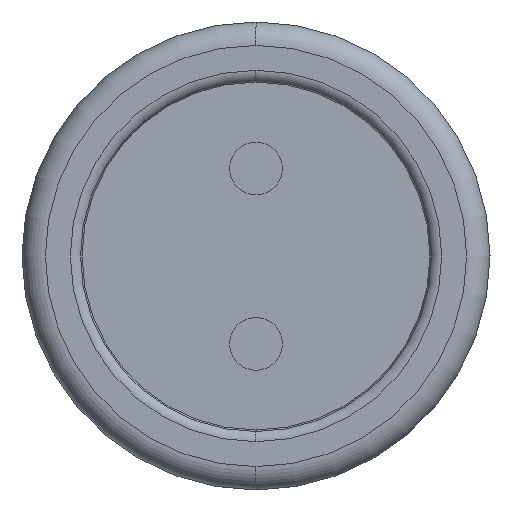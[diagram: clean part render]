
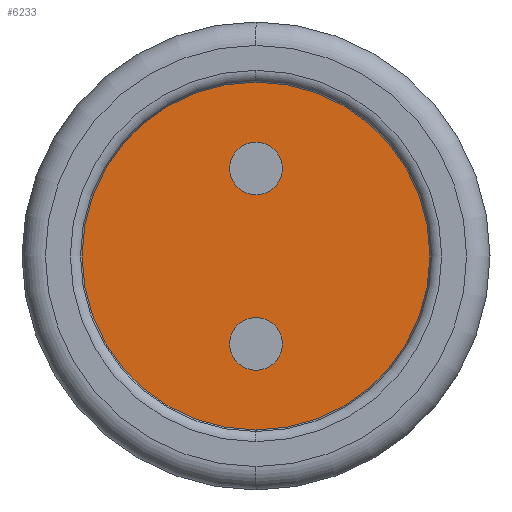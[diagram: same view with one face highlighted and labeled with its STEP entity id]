
A CAD part, left-side view. The second image highlights one B-rep face of the part: STEP entity #6233.
In plain terms, the highlighted planar face has unit normal (-1, 0, 0).
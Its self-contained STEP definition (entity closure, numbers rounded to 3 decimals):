
#40=CARTESIAN_POINT('',(-6.8,0.,0.002));
#41=DIRECTION('',(-1.,0.,0.));
#42=DIRECTION('',(0.,0.,-1.));
#43=AXIS2_PLACEMENT_3D('',#40,#41,#42);
#45=CARTESIAN_POINT('',(-6.8,0.,0.002));
#46=DIRECTION('',(1.,0.,0.));
#47=DIRECTION('',(0.,0.,-1.));
#48=AXIS2_PLACEMENT_3D('',#45,#46,#47);
#50=CARTESIAN_POINT('',(-6.8,0.,-0.75));
#51=DIRECTION('',(-1.,0.,0.));
#52=DIRECTION('',(0.,0.,-1.));
#53=AXIS2_PLACEMENT_3D('',#50,#51,#52);
#55=CARTESIAN_POINT('',(-6.8,0.,-0.75));
#56=DIRECTION('',(-1.,0.,0.));
#57=DIRECTION('',(0.,0.,1.));
#58=AXIS2_PLACEMENT_3D('',#55,#56,#57);
#60=CARTESIAN_POINT('',(-6.8,0.,0.75));
#61=DIRECTION('',(-1.,0.,0.));
#62=DIRECTION('',(0.,0.,-1.));
#63=AXIS2_PLACEMENT_3D('',#60,#61,#62);
#65=CARTESIAN_POINT('',(-6.8,0.,0.75));
#66=DIRECTION('',(-1.,0.,0.));
#67=DIRECTION('',(0.,0.,1.));
#68=AXIS2_PLACEMENT_3D('',#65,#66,#67);
#4686=CARTESIAN_POINT('',(-6.8,0.,-1.498));
#4687=VERTEX_POINT('',#4686);
#4688=CARTESIAN_POINT('',(-6.8,0.,1.502));
#4689=VERTEX_POINT('',#4688);
#4694=CARTESIAN_POINT('',(-6.8,0.,-0.975));
#4695=CARTESIAN_POINT('',(-6.8,0.,-0.525));
#4696=VERTEX_POINT('',#4694);
#4697=VERTEX_POINT('',#4695);
#4698=CARTESIAN_POINT('',(-6.8,0.,0.525));
#4699=CARTESIAN_POINT('',(-6.8,0.,0.975));
#4700=VERTEX_POINT('',#4698);
#4701=VERTEX_POINT('',#4699);
#6212=CARTESIAN_POINT('',(-6.8,0.,0.002));
#6213=DIRECTION('',(1.,0.,0.));
#6214=DIRECTION('',(0.,0.,1.));
#6215=AXIS2_PLACEMENT_3D('',#6212,#6213,#6214);
#6216=PLANE('',#6215);
#6217=ORIENTED_EDGE('',*,*,#6191,.F.);
#6218=ORIENTED_EDGE('',*,*,#6207,.T.);
#6219=EDGE_LOOP('',(#6217,#6218));
#6220=FACE_OUTER_BOUND('',#6219,.F.);
#6222=ORIENTED_EDGE('',*,*,#6221,.T.);
#6224=ORIENTED_EDGE('',*,*,#6223,.T.);
#6225=EDGE_LOOP('',(#6222,#6224));
#6226=FACE_BOUND('',#6225,.F.);
#6228=ORIENTED_EDGE('',*,*,#6227,.T.);
#6230=ORIENTED_EDGE('',*,*,#6229,.T.);
#6231=EDGE_LOOP('',(#6228,#6230));
#6232=FACE_BOUND('',#6231,.F.);
#6233=ADVANCED_FACE('',(#6220,#6226,#6232),#6216,.F.);
#44=CIRCLE('',#43,1.5);
#49=CIRCLE('',#48,1.5);
#54=CIRCLE('',#53,0.225);
#59=CIRCLE('',#58,0.225);
#64=CIRCLE('',#63,0.225);
#69=CIRCLE('',#68,0.225);
#6191=EDGE_CURVE('',#4687,#4689,#44,.T.);
#6207=EDGE_CURVE('',#4687,#4689,#49,.T.);
#6221=EDGE_CURVE('',#4696,#4697,#54,.T.);
#6223=EDGE_CURVE('',#4697,#4696,#59,.T.);
#6227=EDGE_CURVE('',#4700,#4701,#64,.T.);
#6229=EDGE_CURVE('',#4701,#4700,#69,.T.);
